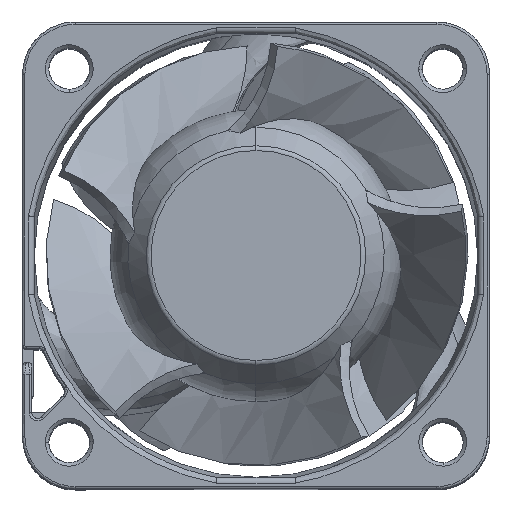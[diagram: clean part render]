
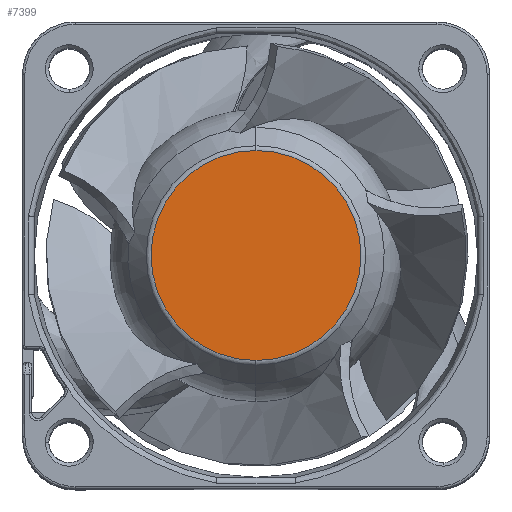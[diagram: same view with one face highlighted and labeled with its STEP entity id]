
A CAD part, top view. The second image highlights one B-rep face of the part: STEP entity #7399.
In plain terms, the highlighted planar face has unit normal (0, 0, 1).
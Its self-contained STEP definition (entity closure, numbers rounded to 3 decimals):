
#997 = ORIENTED_EDGE ( 'NONE', *, *, #25088, .T. ) ;
#2378 = CARTESIAN_POINT ( 'NONE',  ( 0., 0., 54. ) ) ;
#5287 = CARTESIAN_POINT ( 'NONE',  ( 0., -8.994, 54. ) ) ;
#5652 = DIRECTION ( 'NONE',  ( 0., -1., 0. ) ) ;
#7399 = ADVANCED_FACE ( 'NONE', ( #8785 ), #8458, .T. ) ;
#8458 = PLANE ( 'NONE',  #30424 ) ;
#8785 = FACE_OUTER_BOUND ( 'NONE', #29477, .T. ) ;
#9447 = EDGE_CURVE ( 'NONE', #24527, #33382, #28030, .T. ) ;
#15325 = DIRECTION ( 'NONE',  ( 0., 0., 1. ) ) ;
#16964 = CARTESIAN_POINT ( 'NONE',  ( 0., 8.994, 54. ) ) ;
#18406 = DIRECTION ( 'NONE',  ( 0., 0., 1. ) ) ;
#21274 = ORIENTED_EDGE ( 'NONE', *, *, #9447, .T. ) ;
#24527 = VERTEX_POINT ( 'NONE', #5287 ) ;
#25069 = DIRECTION ( 'NONE',  ( 0., 0., 1. ) ) ;
#25088 = EDGE_CURVE ( 'NONE', #33382, #24527, #40042, .T. ) ;
#26625 = AXIS2_PLACEMENT_3D ( 'NONE', #2378, #25069, #5652 ) ;
#28030 = CIRCLE ( 'NONE', #26625, 8.994 ) ;
#29477 = EDGE_LOOP ( 'NONE', ( #21274, #997 ) ) ;
#30424 = AXIS2_PLACEMENT_3D ( 'NONE', #37818, #18406, #41073 ) ;
#33382 = VERTEX_POINT ( 'NONE', #16964 ) ;
#34719 = CARTESIAN_POINT ( 'NONE',  ( 0., 0., 54. ) ) ;
#37818 = CARTESIAN_POINT ( 'NONE',  ( 0., 0., 54. ) ) ;
#37973 = DIRECTION ( 'NONE',  ( 0., -1., 0. ) ) ;
#39011 = AXIS2_PLACEMENT_3D ( 'NONE', #34719, #15325, #37973 ) ;
#40042 = CIRCLE ( 'NONE', #39011, 8.994 ) ;
#41073 = DIRECTION ( 'NONE',  ( 0., -1., 0. ) ) ;
